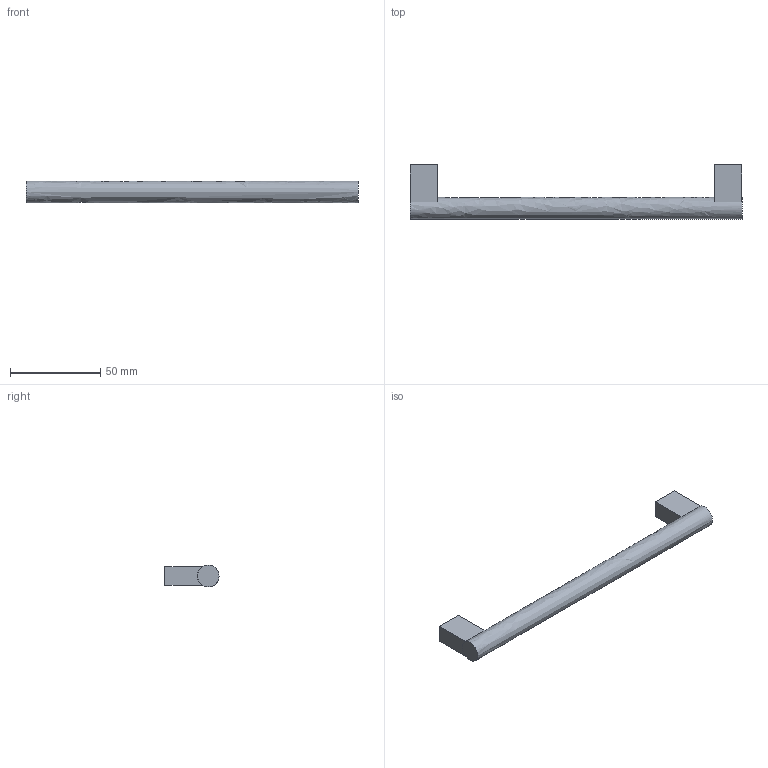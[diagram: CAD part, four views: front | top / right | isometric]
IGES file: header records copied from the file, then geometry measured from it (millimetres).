
Start section: Data from Parasolid IGES Translator 15.0.47, Copyright(c) 2006 Siemens P LM Software. All Rights Reserved.
Global section: file name: 9995499.igs; native system:  By UGS Corp.; preprocessor: XPlus GENERIC/IGES 3.0; author: Noname; organization: Noname; date: 20140122.144118; units: millimetre
Bounding box: 184 x 30 x 12 mm (x, y, z)
Surface area: 9302.1 mm2 (no closed solid volume)
Topology: 0 solids, 0 shells, 17 faces, 66 edges, 62 vertices
Faces by surface type: extrusion 14, revolution 3
